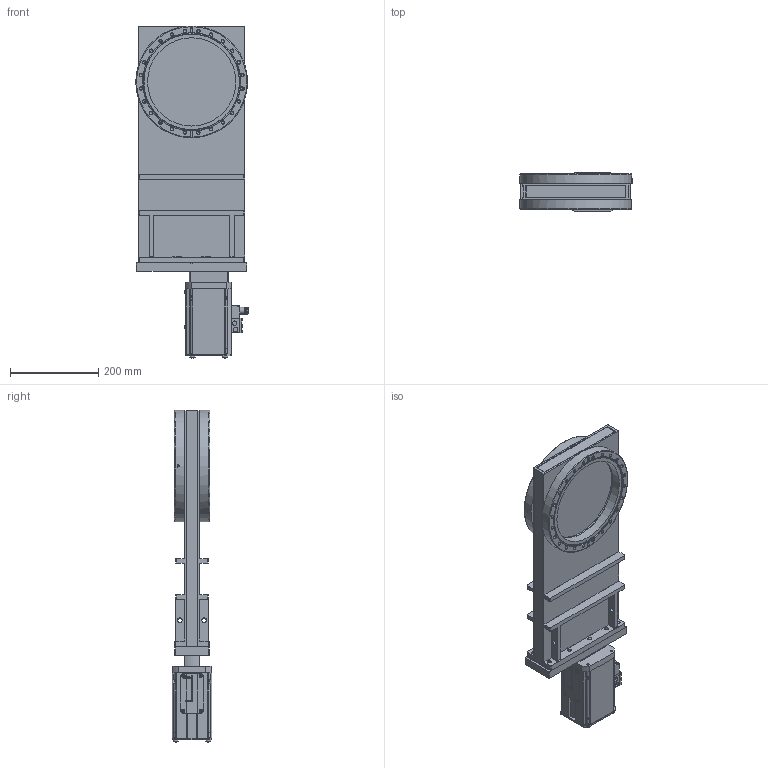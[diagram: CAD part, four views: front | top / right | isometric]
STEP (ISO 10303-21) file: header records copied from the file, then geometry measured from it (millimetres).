
FILE_DESCRIPTION(/* description */ (''),/* implementation_level */ '2;1');
FILE_NAME(/* name */ '1061462380_203.stp',/* time_stamp */ '2021-11-16T09:03:07+01:00',/* author */ (''),/* organization */ (''),/* preprocessor_version */ 'ST-DEVELOPER v16.7',/* originating_system */ 'SIEMENS PLM Software NX 1915',/* authorisation */ '');
FILE_SCHEMA (('AP203_CONFIGURATION_CONTROLLED_3D_DESIGN_OF_MECHANICAL_PARTS_AND_ASSEMBLIES_MIM_LF { 1 0 10303 403 2 1 2}'));
Length unit declared in the file: millimetre
Products named in the file (47): 833986_29829ID; 833986_29837ID; 834001_29839ID; 834001_29840ID; 834006_29842ID; 834014_29844ID; 834014_29845ID; 834046_29847ID; 834046_29848ID; 834046_29849ID; 834046_29850ID; 834044_29851ID; 834044_29852ID; 834044_29853ID; 834044_29827ID; n-6197-034.1; n-7100-007.2; 395614; 94220-01.1; 94224-01.2; n-6099-511.1; 25838-01_1.1_29832ID; 25838-01_1.1_29831ID; N-6024-538.1; 68057-01.1; 982213; 467882; 437235; N-6024-571.1; 85949-01.1; 67114-01.1; 65313-01.1; 842824; 74628-01.3; N-7557-016_2.1; N-5018-005.1; N-7557-016_1.1; N-6024-524.1; N-7557-018.1; 778871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
Assembly tree (72 placements, depth 4):
  1122658
    94237-r1.2
      67114-01.1  x4
      85949-01.1
      N-6024-571.1  x4
      395615
        94224-01.2
        94220-01.1
        395614
        n-7100-007.2  x2
        n-6197-034.1
    778871  x6
    N-7557-018.1
    N-6024-524.1  x9
    N-7557-016_1.1
    N-5018-005.1  x2
    N-7557-016_2.1
    74628-01.3
    N-7557-016_3.1_MODELNX-ARRAGMNTArrangement 1  x2
      437235
      467882
      982213
    78103-r1.1
      68057-01.1
      N-6024-538.1  x4
    889790_MODEL
      834047_MODEL
        834044_29827ID
        834044_29853ID
        834044_29852ID
        834044_29851ID
        834046_29850ID
        834046_29849ID
        834046_29848ID
        834046_29847ID
        834014_29845ID
        834014_29844ID
        834006_29842ID
        834001_29840ID
        834001_29839ID
        833986_29837ID
        833986_29829ID
      25838-01_1.1_29831ID
      25838-01_1.1_29832ID
      n-6099-511.1  x2
    842824
    65313-01.1
Bounding box: 254.68 x 90 x 752.45 mm (x, y, z)
Volume: 4150119.6 mm3; surface area: 1096993.4 mm2
Topology: 67 solids, 67 shells, 2232 faces, 6037 edges, 4082 vertices
Faces by surface type: plane 1510, cylinder 417, cone 201, torus 55, sphere 31, bspline 14, extrusion 4
Full cylindrical faces by diameter (mm): 0.6 x1, 0.725 x1, 1.5 x6, 2 x2, 2.125 x1, 2.5 x4, 2.65 x1, 3 x15, 3.2 x2, 3.3 x4, 3.4 x4, 3.5 x3, 4 x6, 4.05 x4, 4.2 x4, 4.22 x2, 4.3 x4, 4.35 x2, 4.4 x4, 4.5 x2, 4.625 x2, 5 x9, 5.3 x2, 5.4 x4, 5.8 x1, 5.9 x1, 6 x24, 6.6 x4, 6.7 x2, 6.85 x4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
Entity records: 59763 total; most frequent: CARTESIAN_POINT 14866, ORIENTED_EDGE 7830, DIRECTION 7811, EDGE_CURVE 3915, VERTEX_POINT 2947, VECTOR 2615, LINE 2611, AXIS2_PLACEMENT_3D 2598
